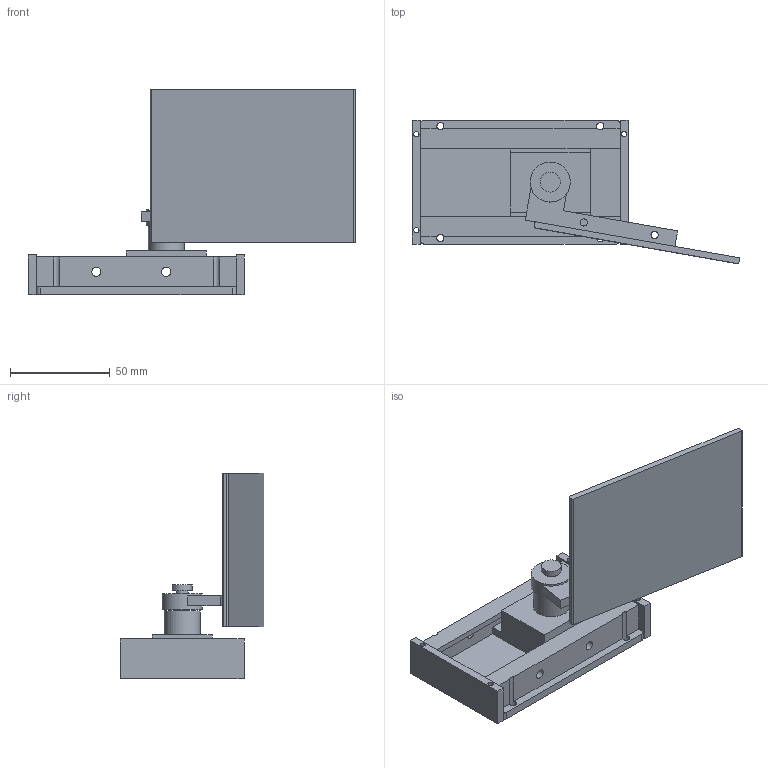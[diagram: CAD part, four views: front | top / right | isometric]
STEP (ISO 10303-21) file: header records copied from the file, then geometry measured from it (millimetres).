
FILE_DESCRIPTION(('Open CASCADE Model'),'2;1');
FILE_NAME('Open CASCADE Shape Model','2026-09-20T04:25:34',('Author'),( 'Open CASCADE'),'Open CASCADE STEP processor 7.9','Open CASCADE 7.9' ,'Unknown');
FILE_SCHEMA(('AUTOMOTIVE_DESIGN { 1 0 10303 214 1 1 1 1 }'));
Length unit declared in the file: millimetre
Products named in the file (8): 5294f9ee-b4ab-11f1-bca5-a68942af9f2b; H01_CAPTURED_SLIDE_BASE; H02_TRANSLATING_CARRIAGE; H03_SWING_LEAF; H04_REAR_END_CAP; H05_FRONT_END_CAP; H06_PIVOT_PIN_REFERENCE; H08_DUMMY_PANEL
Assembly tree (7 placements, depth 2):
  5294f9ee-b4ab-11f1-bca5-a68942af9f2b
    H01_CAPTURED_SLIDE_BASE
    H02_TRANSLATING_CARRIAGE
    H03_SWING_LEAF
    H04_REAR_END_CAP
    H05_FRONT_END_CAP
    H06_PIVOT_PIN_REFERENCE
    H08_DUMMY_PANEL
Bounding box: 163.74 x 71.91 x 103 mm (x, y, z)
Volume: 107325.1 mm3; surface area: 57643.8 mm2
Topology: 7 solids, 7 shells, 93 faces, 240 edges, 160 vertices
Faces by surface type: plane 64, cylinder 29
Full cylindrical faces by diameter (mm): 2.6 x4, 3.6 x6, 4.6 x5, 6 x1, 6.6 x2, 10 x1, 18 x1, 20 x1
Entity records: 6222 total; most frequent: CARTESIAN_POINT 1045, DIRECTION 968, LINE 564, VECTOR 564, ORIENTED_EDGE 480, PCURVE 480, DEFINITIONAL_REPRESENTATION 480, EDGE_CURVE 240
